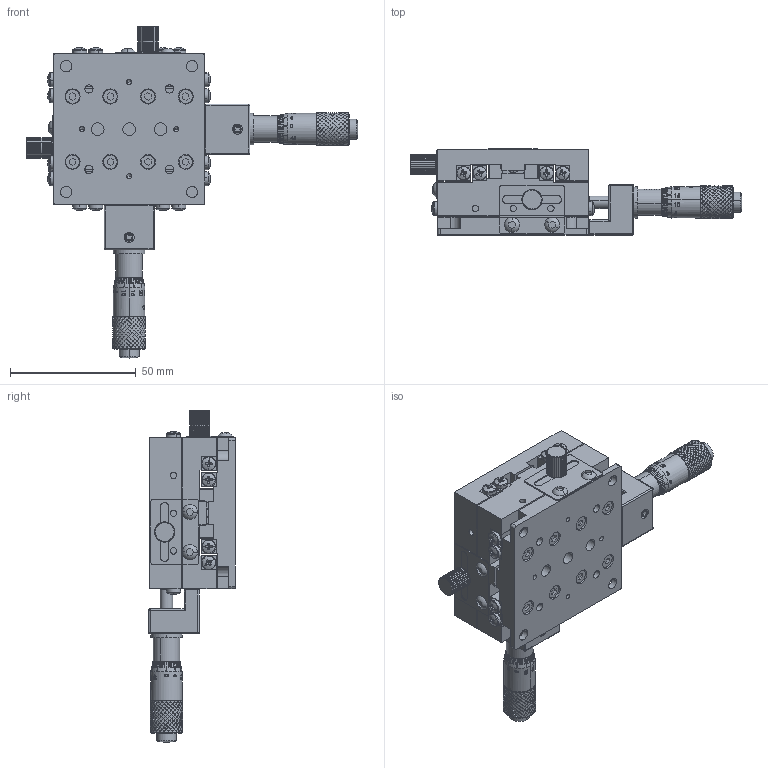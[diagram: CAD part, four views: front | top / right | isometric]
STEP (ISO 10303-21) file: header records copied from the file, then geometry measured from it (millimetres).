
FILE_DESCRIPTION (( 'STEP AP203' ), '1' );
FILE_NAME ('TCJ60XY-05.STEP', '2016-11-29T07:03:05', ( '' ), ( '' ), 'SwSTEP 2.0', 'SolidWorks 2012', '' );
FILE_SCHEMA (( 'CONFIG_CONTROL_DESIGN' ));
Products named in the file (1): TCJ60XY-05
Bounding box: 131.94 x 34.3 x 131.94 mm (x, y, z)
Volume: 118930.3 mm3; surface area: 76832.6 mm2
Topology: 67 solids, 67 shells, 6019 faces, 16392 edges, 10721 vertices
Faces by surface type: bspline 2352, cylinder 1833, plane 1577, cone 149, sphere 60, torus 48
Entity records: 405770 total; most frequent: CARTESIAN_POINT 282432, ORIENTED_EDGE 32532, DIRECTION 17297, EDGE_CURVE 16266, VERTEX_POINT 10721, AXIS2_PLACEMENT_3D 6734, EDGE_LOOP 6605, ADVANCED_FACE 6019
